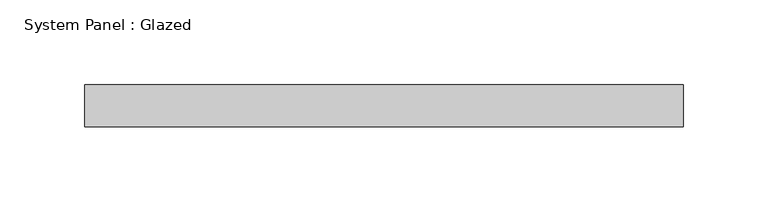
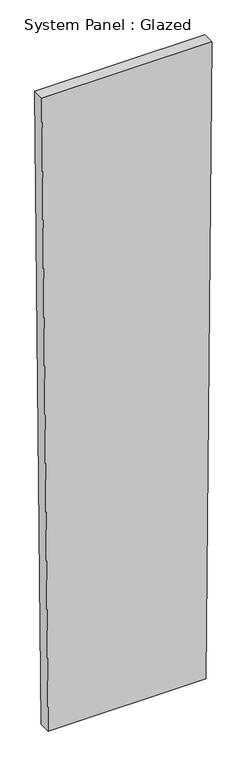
"""IFC4 building model written with IfcOpenShell, lengths in millimetres: plate geometry, System Panel : Glazed."""

from ifc_helpers import new_model, si_unit, frame, origin, place, context, project, spatial, polyline, outline, extrude, source, transform, mapped, element, save


def system_panel_glazed_b83901a0(model_context):
    return source(origin(), model_context, "Body", "SweptSolid", [
        extrude(outline(polyline([(0.0, -163.9440743), (0.0, 163.9439603), (1393.7172065, 177.0146333), (1393.7172065, -177.0146333), (0.0, -163.9440743)])), frame((0.0, -49.5, 0.0), z_axis=(0.0, 1.0, 0.0), x_axis=(0.0, 0.0, 1.0)), (0.0, 0.0, 1.0), 25.0),
    ])


if __name__ == "__main__":
    model = new_model("IFC4")
    model_context = context("Model", 3, world=origin())
    ifc_project = project(units=[si_unit("LENGTHUNIT", "METRE", prefix="MILLI")], contexts=[model_context])
    site = spatial("IfcSite", under=ifc_project)
    building = spatial("IfcBuilding", under=site)
    placement = place(None, origin())
    system_panel_glazed_shape = system_panel_glazed_b83901a0(model_context)
    element("IfcPlate", 1, ObjectType="System Panel : Glazed", at=placement, inside=building, context=model_context, shape_type="MappedRepresentation", body=[
        mapped(system_panel_glazed_shape, transform((0.0, 0.0, 0.0), x_axis=(1.0, 0.0, 0.0), y_axis=(0.0, 1.0, 0.0), z_axis=(0.0, 0.0, 1.0))),
    ])
    save(model, "model.ifc")
